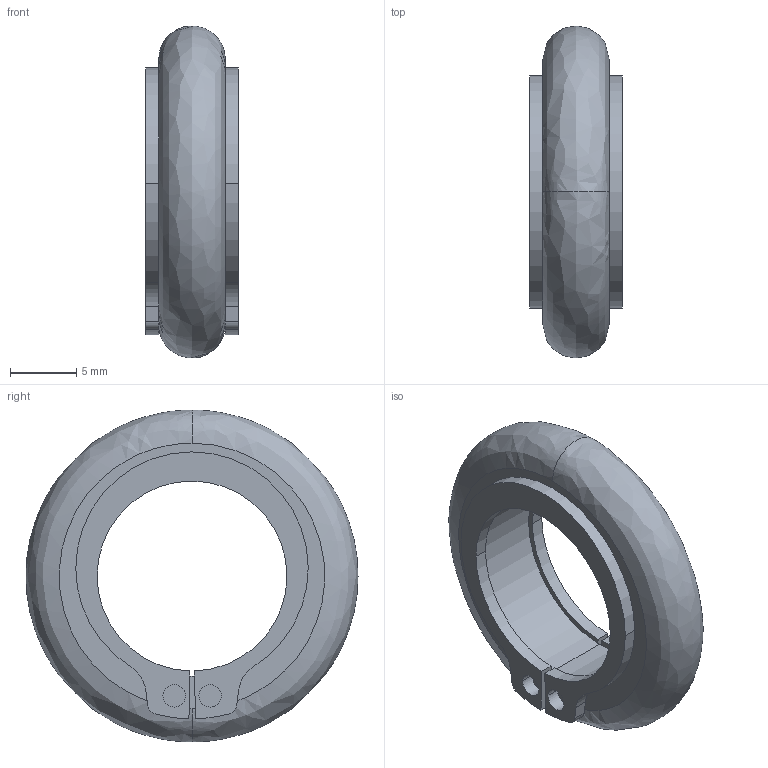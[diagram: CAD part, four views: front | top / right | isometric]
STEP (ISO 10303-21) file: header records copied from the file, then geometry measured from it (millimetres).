
FILE_DESCRIPTION (( 'STEP AP203' ), '1' );
FILE_NAME ('084.801.048.STEP', '2013-02-01T08:23:44', ( 'Alusic' ), ( 'Alusic' ), 'SwSTEP 2.0', 'SolidWorks 2011', '' );
FILE_SCHEMA (( 'CONFIG_CONTROL_DESIGN' ));
Length unit declared in the file: millimetre
Products named in the file (3): 084.801.048; circlip for shafts normal_din_Circlip DIN 471 - 15 x 1; 084.801.048A
Assembly tree (3 placements, depth 2):
  084.801.048
    circlip for shafts normal_din_Circlip DIN 471 - 15 x 1  x2
    084.801.048A
Bounding box: 7 x 25 x 24.99 mm (x, y, z)
Volume: 1551.8 mm3; surface area: 1693.4 mm2
Topology: 3 solids, 3 shells, 50 faces, 132 edges, 88 vertices
Faces by surface type: cylinder 34, plane 14, bspline 2
Entity records: 1273 total; most frequent: CARTESIAN_POINT 232, DIRECTION 166, ORIENTED_EDGE 144, EDGE_CURVE 72, AXIS2_PLACEMENT_3D 68, VERTEX_POINT 48, CIRCLE 36, EDGE_LOOP 34
